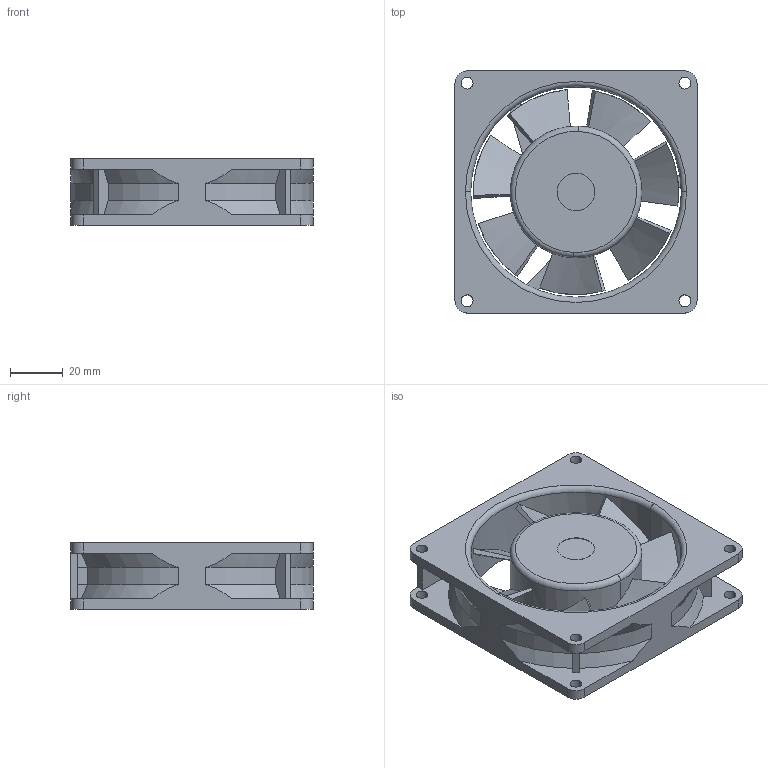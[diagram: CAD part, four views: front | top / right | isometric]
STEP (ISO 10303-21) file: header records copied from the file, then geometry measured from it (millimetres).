
FILE_DESCRIPTION (( 'STEP AP214' ), '1' );
FILE_NAME ('92mm AC EQUIPMENT COOLING FAN.STEP', '2021-02-12T21:02:39', ( '' ), ( '' ), 'SwSTEP 2.0', 'SolidWorks 2018', '' );
FILE_SCHEMA (( 'AUTOMOTIVE_DESIGN' ));
Length unit declared in the file: inch
Products named in the file (1): 92mm AC EQUIPMENT COOLING FAN
Bounding box: 92 x 92 x 25.4 mm (x, y, z)
Volume: 114681.1 mm3; surface area: 42654.8 mm2
Topology: 2 solids, 2 shells, 139 faces, 381 edges, 252 vertices
Faces by surface type: plane 55, cylinder 48, bspline 16, cone 16, torus 4
Entity records: 6849 total; most frequent: CARTESIAN_POINT 1569, ORIENTED_EDGE 762, DIRECTION 651, EDGE_CURVE 381, VERTEX_POINT 252, AXIS2_PLACEMENT_3D 238, VECTOR 175, LINE 175
